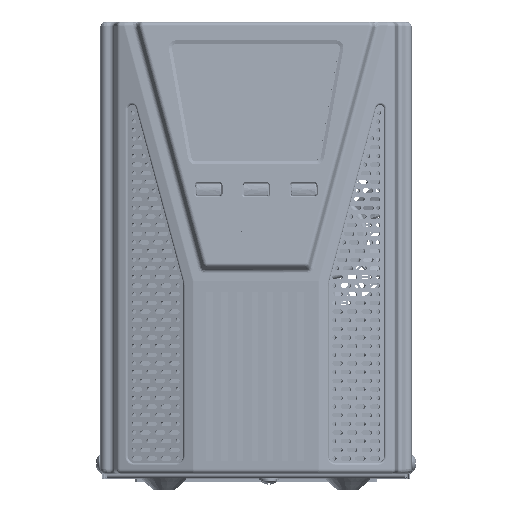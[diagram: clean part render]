
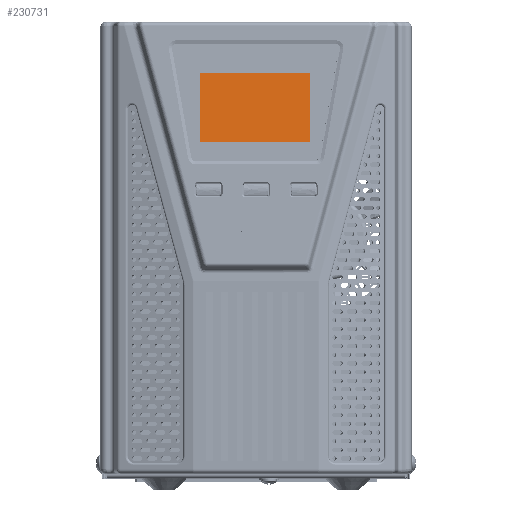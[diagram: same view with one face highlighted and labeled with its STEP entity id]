
A CAD part, top view. The second image highlights one B-rep face of the part: STEP entity #230731.
In plain terms, the highlighted planar face has unit normal (0, 0.075, 0.997).
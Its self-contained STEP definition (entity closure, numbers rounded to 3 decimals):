
#14444 = CARTESIAN_POINT ( 'NONE',  ( 116.438, 286.427, 459.515 ) ) ;
#16635 = LINE ( 'NONE', #136349, #44139 ) ;
#25356 = LINE ( 'NONE', #46620, #193928 ) ;
#37946 = DIRECTION ( 'NONE',  ( 0., -0.997, 0.075 ) ) ;
#42068 = VERTEX_POINT ( 'NONE', #153540 ) ;
#44139 = VECTOR ( 'NONE', #86902, 1000. ) ;
#46620 = CARTESIAN_POINT ( 'NONE',  ( 116.438, 318.337, 457.122 ) ) ;
#56129 = AXIS2_PLACEMENT_3D ( 'NONE', #162886, #64432, #37946 ) ;
#63195 = VECTOR ( 'NONE', #226349, 1000. ) ;
#64432 = DIRECTION ( 'NONE',  ( 0., 0.075, 0.997 ) ) ;
#76429 = CARTESIAN_POINT ( 'NONE',  ( 167.438, 318.337, 457.122 ) ) ;
#77397 = EDGE_CURVE ( 'NONE', #185796, #262171, #163965, .T. ) ;
#83053 = PLANE ( 'NONE',  #56129 ) ;
#86902 = DIRECTION ( 'NONE',  ( -1., 0., 0. ) ) ;
#87516 = ORIENTED_EDGE ( 'NONE', *, *, #184147, .F. ) ;
#116498 = ORIENTED_EDGE ( 'NONE', *, *, #77397, .F. ) ;
#132394 = DIRECTION ( 'NONE',  ( 0., -0.997, 0.075 ) ) ;
#133073 = EDGE_CURVE ( 'NONE', #42068, #185796, #16635, .T. ) ;
#136349 = CARTESIAN_POINT ( 'NONE',  ( 167.438, 286.427, 459.515 ) ) ;
#143232 = EDGE_LOOP ( 'NONE', ( #116498, #262681, #147510, #87516 ) ) ;
#145587 = FACE_OUTER_BOUND ( 'NONE', #143232, .T. ) ;
#147510 = ORIENTED_EDGE ( 'NONE', *, *, #261014, .F. ) ;
#153540 = CARTESIAN_POINT ( 'NONE',  ( 167.438, 286.427, 459.515 ) ) ;
#160233 = VERTEX_POINT ( 'NONE', #262465 ) ;
#162685 = CARTESIAN_POINT ( 'NONE',  ( 116.438, 286.427, 459.515 ) ) ;
#162886 = CARTESIAN_POINT ( 'NONE',  ( 141.938, 305.124, 458.113 ) ) ;
#163965 = LINE ( 'NONE', #162685, #63195 ) ;
#178258 = VECTOR ( 'NONE', #132394, 1000. ) ;
#184147 = EDGE_CURVE ( 'NONE', #262171, #160233, #25356, .T. ) ;
#185796 = VERTEX_POINT ( 'NONE', #14444 ) ;
#185947 = CARTESIAN_POINT ( 'NONE',  ( 116.438, 318.337, 457.122 ) ) ;
#193928 = VECTOR ( 'NONE', #227378, 1000. ) ;
#216007 = LINE ( 'NONE', #76429, #178258 ) ;
#226349 = DIRECTION ( 'NONE',  ( 0., 0.997, -0.075 ) ) ;
#227378 = DIRECTION ( 'NONE',  ( 1., 0., 0. ) ) ;
#230731 = ADVANCED_FACE ( 'NONE', ( #145587 ), #83053, .T. ) ;
#261014 = EDGE_CURVE ( 'NONE', #160233, #42068, #216007, .T. ) ;
#262171 = VERTEX_POINT ( 'NONE', #185947 ) ;
#262465 = CARTESIAN_POINT ( 'NONE',  ( 167.438, 318.337, 457.122 ) ) ;
#262681 = ORIENTED_EDGE ( 'NONE', *, *, #133073, .F. ) ;
